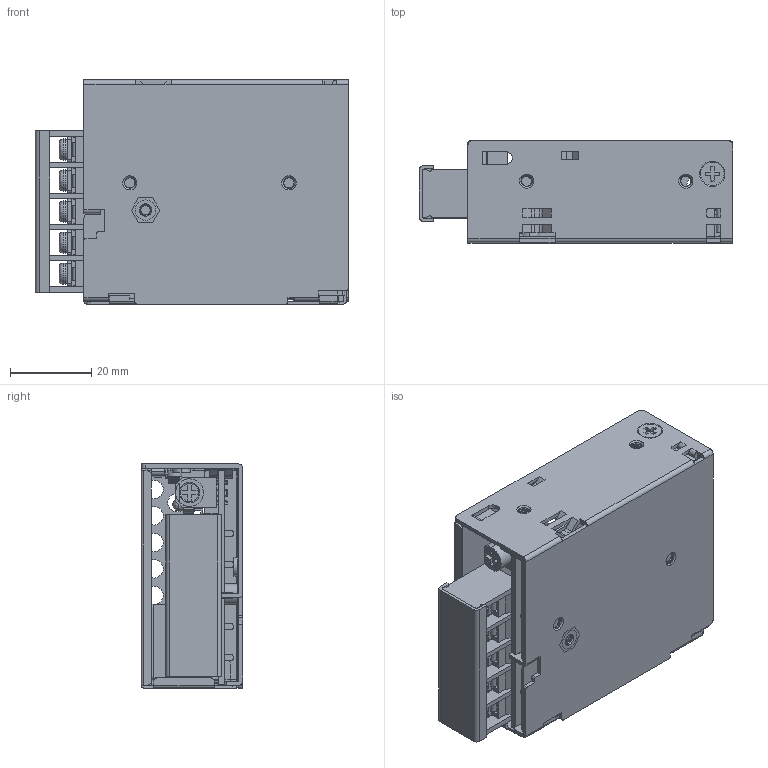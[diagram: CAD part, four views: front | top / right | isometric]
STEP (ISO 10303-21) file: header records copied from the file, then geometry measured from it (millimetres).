
FILE_DESCRIPTION (( 'STEP AP214' ), '1' );
FILE_NAME ('LCW15.STEP', '2021-08-31T17:09:28', ( '' ), ( '' ), 'SwSTEP 2.0', 'SolidWorks 2020', '' );
FILE_SCHEMA (( 'AUTOMOTIVE_DESIGN' ));
Length unit declared in the file: millimetre
Products named in the file (48): CASE_ASM_1_ASM_1_ASM_1_1; ASM1068_ASM_1_ASM_1_1_1; 1_2_2-1; 1_6; 1_4_5-1; OTHERS_ASM_1_ASM_1_ASM_1_1; COVER_1_1_1; DP_2_1_1_1; 1_7_2_2-3; M3X8_16_1_1_1; SCREW_5_1_1_1; 1_1_1-2; 1_9; 1_7_2_2; ASM1068_ASM_1_ASM_1_2_1; ASM1068_ASM_1_ASM_1_3_1; 1_2_2-2; 1_4_5-2; 1_4_5; 1_1_1; 1_2_2-4; LCW15; ASM0393_ASM_2_ASM_1_ASM_1_1; 1_8_1; 1_2_2-3; 1_7_2_2-2; PRT0072_1_1_1; ASM1067_ASM_1_ASM_1_1; M3X8_ASM_4_ASM_1_ASM_1_ASM_1_1; ASM1068_ASM_1_ASM_1_1; 1_7_2_2-4; PRT0054_1_1_1; ASM1065_ASM_1_ASM_1_1; TH_5_1_1_1; 1_7_2_2-1; SCREW_CHASSIS_1_1_1; CHASSIS_1_1_1; 1_1_1-3; PRT0085_1_1_1; 1_4_5-3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
Assembly tree (47 placements, depth 6):
  LCW15
    CASE_ASM_1_ASM_1_ASM_1_1
      CHASSIS_ASM_2_ASM_1_ASM_1_1
        CHASSIS_1_1_1
        SCREW_5_1_1_1
      COVER_1_1_1
    ASM0393_ASM_2_ASM_1_ASM_1_1
      PRT0054_1_1_1
      PRT0072_1_1_1
      PRT0085_1_1_1
      ASM1065_ASM_1_ASM_1_1
        1_6
        1_7_2_2
          1_7_2_2
          1_7_2_2-1
          1_7_2_2-2
          1_7_2_2-3
          1_7_2_2-4
        1_8_1
        ASM1067_ASM_1_ASM_1_1
          1_9
          1_4_5
            1_4_5
            1_4_5-1
            1_4_5-2
            1_4_5-3
        ASM1068_ASM_1_ASM_1_1
          1_1_1
          1_2_2
        ASM1068_ASM_1_ASM_1_1_1
          1_1_1-1
          1_2_2-1
        ASM1068_ASM_1_ASM_1_2_1
          1_1_1-2
          1_2_2-2
        ASM1068_ASM_1_ASM_1_3_1
          1_1_1-3
          1_2_2-3
        ASM1068_ASM_1_ASM_1_4_1
          1_1_1-4
          1_2_2-4
    OTHERS_ASM_1_ASM_1_ASM_1_1
      INSULATOR_6_1_1
      SCREW_CHASSIS_1_1_1
      M3X8_ASM_4_ASM_1_ASM_1_ASM_1_1
        M3X8_16_1_1_1
        DP_2_1_1_1
        TH_5_1_1_1
Bounding box: 76.94 x 25 x 55 mm (x, y, z)
Volume: 20191.2 mm3; surface area: 49095 mm2
Topology: 33 solids, 33 shells, 2614 faces, 7470 edges, 4917 vertices
Faces by surface type: plane 1287, cylinder 978, bspline 218, cone 131
Full cylindrical faces by diameter (mm): 2.85 x1
Entity records: 103839 total; most frequent: CARTESIAN_POINT 34299, ORIENTED_EDGE 14916, DIRECTION 12670, EDGE_CURVE 7458, VERTEX_POINT 4917, AXIS2_PLACEMENT_3D 4291, VECTOR 4088, LINE 4088
